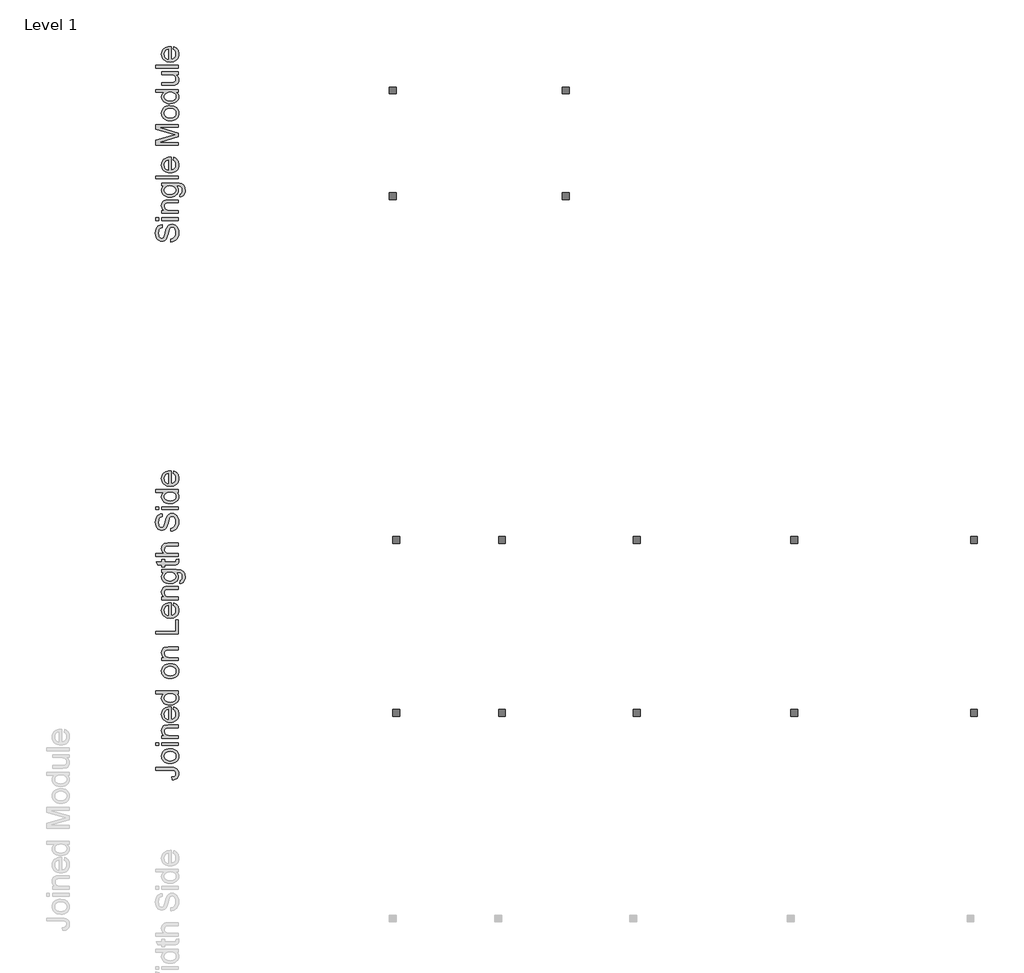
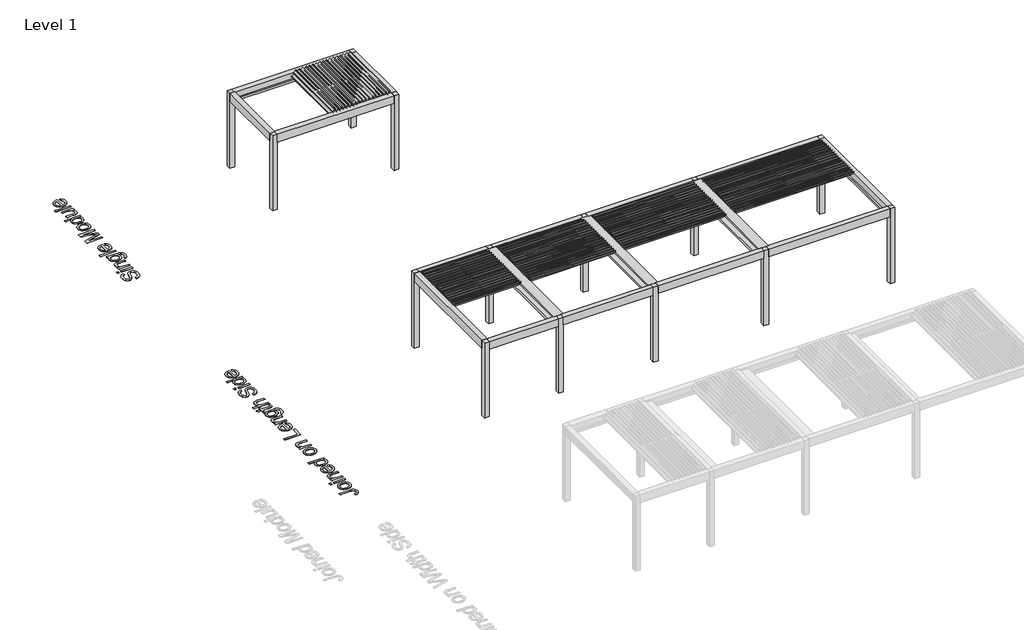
# One storey, part 48 of 69: 4 proxies.
"""IFC4 building model written with IfcOpenShell, lengths in millimetres."""

from ifc_helpers import new_model, si_unit, origin, origin_with_axes, place, context, project, spatial, polyline, outline, extrude, transform, mapped, element, save
from components import generic_models_6c4b0e00, generic_models_14f4a97e, generic_models_66dec0f1

model = new_model("IFC4")

# Units and contexts
model_context = context("Model", 3, world=origin())
ifc_project = project(units=[si_unit("LENGTHUNIT", "METRE", prefix="MILLI")], contexts=[model_context])

# Site, building, storey
site = spatial("IfcSite", under=ifc_project)
building = spatial("IfcBuilding", under=site)
storey = spatial("IfcBuildingStorey", under=building, Name="Level 1", Elevation=0.0)

# Proxies
placement = place(None, origin())
generic_models_shape = generic_models_6c4b0e00(model_context)
element("IfcBuildingElementProxy", 1, Name="Renson_Camargue_Skye_Freestanding_Patio covers : Renson_Camargue_Skye_Freestanding_Patio covers", ObjectType="Renson_Camargue_Skye_Freestanding_Patio covers : Renson_Camargue_Skye_Freestanding_Patio covers", at=placement, inside=storey, context=model_context, shape_type="MappedRepresentation", body=[
    mapped(generic_models_shape, transform((89532.7944478, 33378.5861401, 0.0), x_axis=(1.0, 0.0, 0.0), y_axis=(0.0, 1.0, 0.0), z_axis=(0.0, 0.0, 1.0))),
])
generic_models_2_shape = generic_models_14f4a97e(model_context)
generic_models_3_shape = generic_models_66dec0f1(model_context)
element("IfcBuildingElementProxy", 2, Name="Renson_Camargue_Skye_Freestanding_Patio covers : Renson_Camargue_Skye_Freestanding_Patio covers", ObjectType="Renson_Camargue_Skye_Freestanding_Patio covers : Renson_Camargue_Skye_Freestanding_Patio covers", at=placement, inside=storey, context=model_context, shape_type="MappedRepresentation", body=[
    mapped(generic_models_2_shape, transform((88862.3885423, 22628.5861401, 0.0), x_axis=(1.0, 0.0, 0.0), y_axis=(0.0, 1.0, 0.0), z_axis=(0.0, 0.0, 1.0))),
    mapped(generic_models_3_shape, transform((88862.3885423, 22628.5861401, 0.0), x_axis=(1.0, 0.0, 0.0), y_axis=(0.0, 1.0, 0.0), z_axis=(0.0, 0.0, 1.0))),
])
element("IfcBuildingElementProxy", 3, Name="500mm Arial", ObjectType="500mm Arial", at=placement, inside=storey, context=model_context, shape_type="SweptSolid", body=[
    extrude(outline(polyline([(82669.9627665, 31183.2954326), (82669.9627665, 31246.0806264), (82704.8042571, 31253.2849821), (82732.809274, 31266.3141361), (82755.0354779, 31286.6396164), (82772.5405295, 31315.7329508), (82783.8988861, 31351.294877), (82787.685005, 31391.0261325), (82784.8185911, 31426.0055789), (82776.2193494, 31456.631755), (82762.6077156, 31481.4484612), (82744.7041252, 31498.9994981), (82724.1487187, 31509.4381497), (82702.5816367, 31512.9177002), (82681.5663778, 31510.3118694), (82663.4022043, 31502.494377), (82647.9051752, 31486.6141376), (82634.8913496, 31459.8200656), (82610.9177063, 31368.4013898), (82595.0527952, 31308.3906393), (82579.954305, 31269.9929561), (82558.8317471, 31238.7383149), (82533.2332916, 31216.5887531), (82503.7107615, 31203.3909866), (82470.8159798, 31198.991731), (82434.0431087, 31204.4333189), (82399.753441, 31220.7580824), (82384.2257552, 31232.8943561), (82370.6907634, 31247.536826), (82349.5988624, 31284.3403539), (82336.7689778, 31328.5168502), (82332.4923496, 31377.4144987), (82336.9682472, 31430.389506), (82350.39594, 31476.7426374), (82372.4995166, 31514.8184239), (82386.7012944, 31530.1315119), (82403.0030653, 31542.9613965), (82440.0058627, 31560.7730165), (82481.607185, 31567.8547449), (82481.607185, 31505.069551), (82461.5729447, 31500.8695649), (82444.1445351, 31493.5425818), (82429.3219564, 31483.0886018), (82417.1052085, 31469.5076248), (82407.555605, 31452.546732), (82400.7344597, 31431.9530045), (82395.2775434, 31379.8670453), (82400.673146, 31326.5548129), (82407.4176493, 31306.1756832), (82416.8599538, 31289.9812112), (82428.2106462, 31277.6418359), (82440.680313, 31268.8279964), (82454.2689542, 31263.5396928), (82468.9765698, 31261.7769249), (82493.1034973, 31266.7739886), (82512.5092726, 31281.7651799), (82521.139171, 31295.5300979), (82529.86104, 31317.2044788), (82547.5806894, 31384.2816293), (82564.4112907, 31453.504758), (82579.0959137, 31495.3819918), (82601.8739406, 31531.1738443), (82629.9862564, 31556.1438347), (82663.1262928, 31570.8131292), (82700.9874814, 31575.7028941), (82739.691733, 31570.0773652), (82776.0967221, 31553.2007787), (82807.4280054, 31525.7629132), (82830.9111394, 31488.4535476), (82845.5804339, 31443.5872726), (82850.4701988, 31393.4786791), (82845.1972235, 31331.9657439), (82838.6060045, 31305.2904671), (82829.3782977, 31281.3359843), (82817.498775, 31259.9566754), (82802.9521078, 31241.0069206), (82785.7382961, 31224.4867197), (82765.8573399, 31210.3960729), (82743.9530328, 31199.0453805), (82720.6691682, 31190.745043), (82696.0057461, 31185.4950603), (82669.9627665, 31183.2954326)])), origin_with_axes(), (0.0, 0.0, 1.0), 5.0),
    extrude(outline(polyline([(82403.1256927, 31662.0325356), (82340.3404988, 31662.0325356), (82340.3404988, 31724.8177295), (82403.1256927, 31724.8177295), (82403.1256927, 31662.0325356)])), origin_with_axes(), (0.0, 0.0, 1.0), 5.0),
    extrude(outline(polyline([(82842.6220496, 31662.0325356), (82473.7590357, 31662.0325356), (82473.7590357, 31724.8177295), (82842.6220496, 31724.8177295), (82842.6220496, 31662.0325356)])), origin_with_axes(), (0.0, 0.0, 1.0), 5.0),
    extrude(outline(polyline([(82842.6220496, 31818.9955202), (82473.7590357, 31818.9955202), (82473.7590357, 31881.7807141), (82525.2625151, 31881.7807141), (82499.2961776, 31903.5930507), (82480.7487936, 31929.7893144), (82469.6203633, 31960.3695053), (82465.9108865, 31995.3336233), (82468.8999277, 32026.2816961), (82477.8670514, 32054.6239381), (82491.693283, 32078.2603563), (82509.2596483, 32095.0909576), (82530.5201619, 32106.5106279), (82555.4288387, 32113.914253), (82616.1293679, 32117.225191), (82842.6220496, 32117.225191), (82842.6220496, 32054.4399971), (82624.5906538, 32054.4399971), (82592.1250677, 32052.631244), (82569.0404725, 32047.2049846), (82552.5011111, 32037.1955286), (82539.6712265, 32021.6371859), (82531.4398669, 32001.6949161), (82528.6960804, 31978.5336788), (82530.2365862, 31959.4689608), (82534.8581038, 31941.7608077), (82542.560633, 31925.4092194), (82553.344174, 31910.414196), (82568.435, 31897.8870477), (82589.0593844, 31888.9390846), (82615.2173271, 31883.5703067), (82646.9088281, 31881.7807141), (82842.6220496, 31881.7807141), (82842.6220496, 31818.9955202)])), origin_with_axes(), (0.0, 0.0, 1.0), 5.0),
    extrude(outline(polyline([(82874.0146465, 32187.8585341), (82881.8627957, 32250.6437279), (82901.4831688, 32257.5721721), (82914.9721753, 32270.999865), (82925.4568122, 32297.3953981), (82928.9516911, 32331.9456488), (82924.9969597, 32368.795162), (82913.1327653, 32396.2023707), (82894.1255289, 32415.2096071), (82868.7416712, 32426.8592036), (82841.7330014, 32430.2621121), (82795.5331542, 32431.1511602), (82816.1345459, 32410.2585286), (82830.8498257, 32386.9440071), (82839.6789936, 32361.2075959), (82842.6220496, 32333.0492948), (82839.1961485, 32298.6255035), (82828.9184453, 32268.3173921), (82811.7889399, 32242.1249605), (82787.8076323, 32220.0482086), (82759.0361946, 32202.5316607), (82727.5362987, 32190.0198408), (82693.3079448, 32182.5127488), (82656.3511327, 32180.0103848), (82605.6600594, 32184.5016109), (82559.046345, 32197.9752889), (82519.5450157, 32219.9562381), (82503.5996305, 32233.9587466), (82490.1910982, 32249.9692776), (82479.5685056, 32267.7310802), (82471.9809394, 32286.9874033), (82467.4283997, 32307.7382471), (82465.9108865, 32329.9836115), (82469.3444518, 32359.3451933), (82479.6451477, 32385.9936453), (82496.8129741, 32409.9289676), (82520.8479311, 32431.1511602), (82473.7590357, 32431.1511602), (82473.7590357, 32493.936354), (82792.2222162, 32493.936354), (82865.75263, 32489.6443974), (82893.1023571, 32484.2794517), (82914.1750976, 32476.7685276), (82946.2881301, 32454.588309), (82970.8902386, 32422.383306), (82980.0106464, 32402.6977871), (82986.5252234, 32380.8586258), (82991.736885, 32330.7193755), (82989.9013071, 32299.9590758), (82984.3945735, 32272.3027804), (82975.2166841, 32247.7504893), (82962.367639, 32226.3022026), (82945.8321097, 32208.9772598), (82925.5947679, 32196.7950009), (82901.6556135, 32189.7554256), (82874.0146465, 32187.8585341)]), holes=[polyline([(82652.0591761, 32242.7955787), (82683.1030515, 32244.4702082), (82709.6480367, 32249.4940967), (82731.6941317, 32257.8672442), (82749.2413365, 32269.5896507), (82762.6268761, 32283.8412459), (82772.1879759, 32299.8019595), (82777.9246358, 32317.4717916), (82779.8368557, 32336.8507421), (82777.9361321, 32356.0380874), (82772.2339612, 32373.6236132), (82762.730343, 32389.6073195), (82749.4252775, 32403.9892062), (82732.0505174, 32415.8725611), (82710.3378155, 32424.3606717), (82684.2871717, 32429.4535381), (82653.898586, 32431.1511602), (82624.7784269, 32429.4037207), (82599.4673792, 32424.1614023), (82577.965443, 32415.4242049), (82560.2726183, 32403.1921286), (82546.4578829, 32388.4998414), (82536.5902148, 32372.3820115), (82530.669614, 32354.8386388), (82528.6960804, 32335.8697235), (82530.6389571, 32317.2188727), (82536.4675875, 32300.0165573), (82546.1819714, 32284.2627773), (82559.7821089, 32269.9575327), (82577.2066864, 32258.0741778), (82598.39439, 32249.5860672), (82623.3452199, 32244.4932008), (82652.0591761, 32242.7955787)])]), origin_with_axes(), (0.0, 0.0, 1.0), 5.0),
    extrude(outline(polyline([(82842.6220496, 32588.1141448), (82340.3404988, 32588.1141448), (82340.3404988, 32650.8993387), (82842.6220496, 32650.8993387), (82842.6220496, 32588.1141448)])), origin_with_axes(), (0.0, 0.0, 1.0), 5.0),
    extrude(outline(polyline([(82732.7479603, 33003.33029), (82740.5961096, 33064.8892106), (82765.2518675, 33055.4507381), (82786.9798978, 33042.7089919), (82805.7802006, 33026.663972), (82821.6527758, 33007.3156783), (82834.2603984, 32984.8633803), (82843.2658431, 32959.5063474), (82848.6691099, 32931.2445795), (82850.4701988, 32900.0780767), (82847.3623624, 32861.1209063), (82838.038853, 32826.4097072), (82822.4996709, 32795.9444795), (82800.7448158, 32769.7252231), (82773.3797603, 32748.6409863), (82741.0099768, 32733.5808171), (82703.6354654, 32724.5447156), (82661.2562259, 32721.5326817), (82617.4399475, 32724.5753724), (82578.8200022, 32733.7034444), (82545.3963901, 32748.9168977), (82517.1691112, 32770.2157324), (82494.7436379, 32796.3660109), (82478.7254427, 32826.1337957), (82469.1145256, 32859.5190868), (82465.9108865, 32896.5218841), (82469.1068613, 32932.3328971), (82478.6947858, 32964.718009), (82494.67466, 32993.6772198), (82517.0464838, 33019.2105295), (82545.2124491, 33040.0533438), (82578.5747475, 33054.9410683), (82617.1333792, 33063.873703), (82660.888344, 33066.8512479), (82677.8109157, 33066.4833659), (82677.8109157, 32784.3178756), (82702.8652124, 32787.9545424), (82724.8078406, 32795.1857229), (82743.6388002, 32806.011417), (82759.3580913, 32820.4316248), (82771.751116, 32837.6492686), (82780.6032766, 32856.8672707), (82785.9145729, 32878.0856312), (82787.685005, 32901.30435), (82784.4047238, 32934.7202979), (82774.5638805, 32962.8632706), (82757.5493382, 32985.7332679), (82732.7479603, 33003.33029)]), holes=[polyline([(82615.0257219, 32784.3178756), (82615.0257219, 33004.066054), (82581.8550287, 32995.5741113), (82558.12664, 32978.927451), (82545.2507701, 32961.8056098), (82536.0537203, 32942.3231925), (82530.5354903, 32920.480199), (82528.6960804, 32896.2766294), (82534.5668639, 32853.9548716), (82541.9053432, 32835.5416113), (82552.1792144, 32818.9600968), (82564.9132964, 32805.0457267), (82579.6324083, 32794.6338999), (82596.3365501, 32787.7246161), (82615.0257219, 32784.3178756)])]), origin_with_axes(), (0.0, 0.0, 1.0), 5.0),
    extrude(outline(polyline([(82842.6220496, 33333.6883217), (82340.3404988, 33333.6883217), (82340.3404988, 33441.723001), (82694.3656055, 33544.4847049), (82768.3098865, 33565.208724), (82688.2342389, 33587.6495257), (82340.3404988, 33688.6944471), (82340.3404988, 33796.7291263), (82842.6220496, 33796.7291263), (82842.6220496, 33733.9439325), (82403.1256927, 33733.9439325), (82842.6220496, 33607.7604081), (82842.6220496, 33522.6570399), (82403.1256927, 33396.4735156), (82842.6220496, 33396.4735156), (82842.6220496, 33333.6883217)])), origin_with_axes(), (0.0, 0.0, 1.0), 5.0),
    extrude(outline(polyline([(82658.1905427, 33883.0587678), (82610.4195327, 33886.4540121), (82569.2550703, 33896.6397448), (82534.6971554, 33913.6159661), (82506.745788, 33937.3826758), (82488.8805186, 33961.3103339), (82476.1196119, 33987.7211955), (82468.4630679, 34016.6152605), (82465.9108865, 34047.992529), (82469.0187229, 34082.6309181), (82478.3422323, 34113.9507051), (82493.8814145, 34141.9518898), (82515.6362695, 34166.6344725), (82542.8710335, 34186.7798438), (82574.8499423, 34201.1693947), (82611.5729961, 34209.8031253), (82653.0401947, 34212.6810355), (82716.4691821, 34207.5920012), (82742.5044974, 34201.2307084), (82764.7536939, 34192.3248984), (82783.9716961, 34180.9857024), (82800.9134284, 34167.3242512), (82815.5788908, 34151.3405449), (82827.9680834, 34133.0345836), (82844.84467, 34092.306981), (82850.4701988, 34047.992529), (82847.3738587, 34012.8483022), (82838.0848383, 33981.2372753), (82822.6031377, 33953.1594484), (82800.9287568, 33928.6148216), (82773.4295776, 33908.6840481), (82740.4734822, 33894.4477813), (82702.0604706, 33885.9060212), (82658.1905427, 33883.0587678)]), holes=[polyline([(82658.0679153, 33945.8439617), (82688.5216467, 33947.660379), (82714.8903552, 33953.1096311), (82737.1740406, 33962.1917178), (82755.372703, 33974.9066393), (82769.5093351, 33990.3730115), (82779.6069295, 34007.7094505), (82785.6654861, 34026.9159564), (82787.685005, 34047.992529), (82785.6539898, 34068.9618027), (82779.5609442, 34088.0916665), (82769.4058683, 34105.3821203), (82755.1887621, 34120.8331641), (82736.8099907, 34133.5480855), (82714.1699196, 34142.6301723), (82687.2685487, 34148.0794243), (82656.105878, 34149.8958417), (82626.6178368, 34148.067928), (82600.9389072, 34142.584187), (82579.069089, 34133.4446187), (82561.0083823, 34120.6492231), (82546.8717502, 34105.1406977), (82536.7741558, 34087.8617402), (82530.7155992, 34068.8123507), (82528.6960804, 34047.992529), (82530.707935, 34026.9159564), (82536.743499, 34007.7094505), (82546.8027723, 33990.3730115), (82560.8857549, 33974.9066393), (82579.0307679, 33962.1917178), (82601.2761323, 33953.1096311), (82627.6218481, 33947.660379), (82658.0679153, 33945.8439617)])]), origin_with_axes(), (0.0, 0.0, 1.0), 5.0),
    extrude(outline(polyline([(82842.6220496, 34510.9107063), (82783.3930483, 34510.9107063), (82812.7393017, 34492.1257319), (82833.7009112, 34469.3706977), (82846.2778769, 34442.6456035), (82850.4701988, 34411.9504496), (82844.4001459, 34371.3608028), (82826.1899871, 34334.2047213), (82797.1119811, 34302.7508107), (82758.4383863, 34279.2676766), (82711.7327014, 34264.6443673), (82658.5584247, 34259.7699309), (82606.0432698, 34264.2611569), (82558.6171493, 34277.734835), (82537.4869272, 34287.8362614), (82518.9778643, 34300.1756367), (82503.0899606, 34314.7529608), (82489.8232162, 34331.5682336), (82471.8889689, 34369.5367212), (82465.9108865, 34411.7051949), (82470.1875147, 34442.4233415), (82483.0173993, 34469.5852955), (82502.6837576, 34492.608577), (82527.469807, 34510.9107063), (82340.3404988, 34510.9107063), (82340.3404988, 34573.6959001), (82842.6220496, 34573.6959001), (82842.6220496, 34510.9107063)]), holes=[polyline([(82658.31317, 34322.5551247), (82688.7592372, 34324.3255568), (82715.104953, 34329.6368531), (82737.3503174, 34338.4890137), (82755.4953304, 34350.8820384), (82769.578313, 34365.6816245), (82779.6375863, 34381.7534691), (82785.6731503, 34399.0975724), (82787.685005, 34417.7139342), (82785.7651208, 34436.4184344), (82780.0054683, 34453.6590708), (82770.4060475, 34469.4358434), (82756.9668584, 34483.7487523), (82739.580602, 34495.6321072), (82718.1399795, 34504.1202178), (82692.6449908, 34509.2130841), (82663.0956359, 34510.9107063), (82630.6990277, 34509.1824273), (82602.9162729, 34503.9975904), (82579.7473714, 34495.3561957), (82561.1923233, 34483.258243), (82546.975217, 34468.6311016), (82536.8201411, 34452.4021406), (82530.7270955, 34434.5713602), (82528.6960804, 34415.1387602), (82530.6466213, 34396.1545164), (82536.4982443, 34378.8104132), (82546.2509493, 34363.1064505), (82559.9047363, 34349.0426284), (82577.7585094, 34337.4543455), (82600.1111727, 34329.1770007), (82626.9627262, 34324.2105937), (82658.31317, 34322.5551247)])]), origin_with_axes(), (0.0, 0.0, 1.0), 5.0),
    extrude(outline(polyline([(82842.6220496, 34903.3181678), (82779.2237191, 34903.3181678), (82810.394054, 34880.6014546), (82832.6585789, 34854.1446078), (82846.0172938, 34823.9476273), (82850.4701988, 34790.0105133), (82847.3432018, 34759.4303224), (82837.962211, 34730.9654531), (82823.8600678, 34707.0837802), (82806.569614, 34690.2531789), (82785.5696835, 34678.9254792), (82760.33911, 34671.5525108), (82701.9685001, 34667.8736909), (82473.7590357, 34667.8736909), (82473.7590357, 34730.6588847), (82672.4153131, 34730.6588847), (82736.4267803, 34734.460332), (82757.7792644, 34743.6113966), (82774.0120575, 34759.2923667), (82784.2667681, 34780.4609098), (82787.685005, 34806.0746937), (82784.190126, 34833.1600056), (82773.7054891, 34858.497878), (82757.1967846, 34879.3905097), (82735.6297026, 34893.1400993), (82706.0918441, 34900.7736507), (82665.6708099, 34903.3181678), (82473.7590357, 34903.3181678), (82473.7590357, 34966.1033616), (82842.6220496, 34966.1033616), (82842.6220496, 34903.3181678)])), origin_with_axes(), (0.0, 0.0, 1.0), 5.0),
    extrude(outline(polyline([(82842.6220496, 35052.4330032), (82340.3404988, 35052.4330032), (82340.3404988, 35115.218197), (82842.6220496, 35115.218197), (82842.6220496, 35052.4330032)])), origin_with_axes(), (0.0, 0.0, 1.0), 5.0),
    extrude(outline(polyline([(82732.7479603, 35467.6491484), (82740.5961096, 35529.2080689), (82765.2518675, 35519.7695965), (82786.9798978, 35507.0278503), (82805.7802006, 35490.9828304), (82821.6527758, 35471.6345367), (82834.2603984, 35449.1822387), (82843.2658431, 35423.8252057), (82848.6691099, 35395.5634379), (82850.4701988, 35364.3969351), (82847.3623624, 35325.4397646), (82838.038853, 35290.7285655), (82822.4996709, 35260.2633378), (82800.7448158, 35234.0440815), (82773.3797603, 35212.9598446), (82741.0099768, 35197.8996754), (82703.6354654, 35188.8635739), (82661.2562259, 35185.8515401), (82617.4399475, 35188.8942308), (82578.8200022, 35198.0223028), (82545.3963901, 35213.2357561), (82517.1691112, 35234.5345908), (82494.7436379, 35260.6848693), (82478.7254427, 35290.4526541), (82469.1145256, 35323.8379451), (82465.9108865, 35360.8407425), (82469.1068613, 35396.6517554), (82478.6947858, 35429.0368673), (82494.67466, 35457.9960781), (82517.0464838, 35483.5293879), (82545.2124491, 35504.3722021), (82578.5747475, 35519.2599266), (82617.1333792, 35528.1925613), (82660.888344, 35531.1701062), (82677.8109157, 35530.8022242), (82677.8109157, 35248.6367339), (82702.8652124, 35252.2734007), (82724.8078406, 35259.5045812), (82743.6388002, 35270.3302753), (82759.3580913, 35284.7504831), (82771.751116, 35301.9681269), (82780.6032766, 35321.1861291), (82785.9145729, 35342.4044896), (82787.685005, 35365.6232084), (82784.4047238, 35399.0391563), (82774.5638805, 35427.1821289), (82757.5493382, 35450.0521263), (82732.7479603, 35467.6491484)]), holes=[polyline([(82615.0257219, 35248.6367339), (82615.0257219, 35468.3849124), (82581.8550287, 35459.8929697), (82558.12664, 35443.2463094), (82545.2507701, 35426.1244682), (82536.0537203, 35406.6420509), (82530.5354903, 35384.7990574), (82528.6960804, 35360.5954878), (82534.5668639, 35318.2737299), (82541.9053432, 35299.8604697), (82552.1792144, 35283.2789551), (82564.9132964, 35269.3645851), (82579.6324083, 35258.9527582), (82596.3365501, 35252.0434745), (82615.0257219, 35248.6367339)])]), origin_with_axes(), (0.0, 0.0, 1.0), 5.0),
])
element("IfcBuildingElementProxy", 4, Name="500mm Arial", ObjectType="500mm Arial", at=placement, inside=storey, context=model_context, shape_type="SweptSolid", body=[
    extrude(outline(polyline([(82701.6006181, 19215.8193319), (82693.5072142, 19278.6045257), (82739.1552384, 19285.1344311), (82755.5643083, 19291.5493734), (82767.6967499, 19300.0643087), (82782.6879412, 19322.8729924), (82787.685005, 19353.0393161), (82784.8492479, 19376.2312102), (82776.3419768, 19396.0201958), (82762.9449408, 19411.2872986), (82745.4398892, 19420.9135442), (82720.1020168, 19426.0179068), (82683.2065183, 19427.7193611), (82340.3404988, 19427.7193611), (82340.3404988, 19490.5045549), (82682.1028723, 19490.5045549), (82738.0056072, 19486.718436), (82779.6529147, 19475.3600794), (82810.0798214, 19455.7703632), (82832.3213537, 19427.2901654), (82845.9329875, 19391.5289698), (82850.4701988, 19350.0962601), (82848.1287832, 19319.1558515), (82841.1045363, 19292.0628754), (82829.3974583, 19268.8173318), (82813.007549, 19249.4192207), (82791.9961221, 19234.2134316), (82766.4244913, 19223.5448537), (82736.2926567, 19217.4134872), (82701.6006181, 19215.8193319)])), origin_with_axes(), (0.0, 0.0, 1.0), 5.0),
    extrude(outline(polyline([(82658.1905427, 19576.8341965), (82610.4195327, 19580.2294407), (82569.2550703, 19590.4151734), (82534.6971554, 19607.3913947), (82506.745788, 19631.1581044), (82488.8805186, 19655.0857625), (82476.1196119, 19681.4966241), (82468.4630679, 19710.3906891), (82465.9108865, 19741.7679576), (82469.0187229, 19776.4063467), (82478.3422323, 19807.7261337), (82493.8814145, 19835.7273185), (82515.6362695, 19860.4099011), (82542.8710335, 19880.5552724), (82574.8499423, 19894.9448234), (82611.5729961, 19903.5785539), (82653.0401947, 19906.4564641), (82716.4691821, 19901.3674299), (82742.5044974, 19895.006137), (82764.7536939, 19886.1003271), (82783.9716961, 19874.761131), (82800.9134284, 19861.0996798), (82815.5788908, 19845.1159735), (82827.9680834, 19826.8100122), (82844.84467, 19786.0824096), (82850.4701988, 19741.7679576), (82847.3738587, 19706.6237308), (82838.0848383, 19675.0127039), (82822.6031377, 19646.9348771), (82800.9287568, 19622.3902502), (82773.4295776, 19602.4594767), (82740.4734822, 19588.2232099), (82702.0604706, 19579.6814498), (82658.1905427, 19576.8341965)]), holes=[polyline([(82658.0679153, 19639.6193903), (82688.5216467, 19641.4358076), (82714.8903552, 19646.8850597), (82737.1740406, 19655.9671465), (82755.372703, 19668.6820679), (82769.5093351, 19684.1484401), (82779.6069295, 19701.4848791), (82785.6654861, 19720.691385), (82787.685005, 19741.7679576), (82785.6539898, 19762.7372313), (82779.5609442, 19781.8670951), (82769.4058683, 19799.1575489), (82755.1887621, 19814.6085927), (82736.8099907, 19827.3235141), (82714.1699196, 19836.4056009), (82687.2685487, 19841.8548529), (82656.105878, 19843.6712703), (82626.6178368, 19841.8433566), (82600.9389072, 19836.3596156), (82579.069089, 19827.2200473), (82561.0083823, 19814.4246517), (82546.8717502, 19798.9161263), (82536.7741558, 19781.6371688), (82530.7155992, 19762.5877793), (82528.6960804, 19741.7679576), (82530.707935, 19720.691385), (82536.743499, 19701.4848791), (82546.8027723, 19684.1484401), (82560.8857549, 19668.6820679), (82579.0307679, 19655.9671465), (82601.2761323, 19646.8850597), (82627.6218481, 19641.4358076), (82658.0679153, 19639.6193903)])]), origin_with_axes(), (0.0, 0.0, 1.0), 5.0),
    extrude(outline(polyline([(82403.1256927, 19977.0898072), (82340.3404988, 19977.0898072), (82340.3404988, 20039.875001), (82403.1256927, 20039.875001), (82403.1256927, 19977.0898072)])), origin_with_axes(), (0.0, 0.0, 1.0), 5.0),
    extrude(outline(polyline([(82842.6220496, 19977.0898072), (82473.7590357, 19977.0898072), (82473.7590357, 20039.875001), (82842.6220496, 20039.875001), (82842.6220496, 19977.0898072)])), origin_with_axes(), (0.0, 0.0, 1.0), 5.0),
    extrude(outline(polyline([(82842.6220496, 20134.0527918), (82473.7590357, 20134.0527918), (82473.7590357, 20196.8379857), (82525.2625151, 20196.8379857), (82499.2961776, 20218.6503223), (82480.7487936, 20244.846586), (82469.6203633, 20275.4267769), (82465.9108865, 20310.3908948), (82468.8999277, 20341.3389677), (82477.8670514, 20369.6812097), (82491.693283, 20393.3176279), (82509.2596483, 20410.1482292), (82530.5201619, 20421.5678995), (82555.4288387, 20428.9715246), (82616.1293679, 20432.2824626), (82842.6220496, 20432.2824626), (82842.6220496, 20369.4972687), (82624.5906538, 20369.4972687), (82592.1250677, 20367.6885156), (82569.0404725, 20362.2622562), (82552.5011111, 20352.2528002), (82539.6712265, 20336.6944575), (82531.4398669, 20316.7521877), (82528.6960804, 20293.5909504), (82530.2365862, 20274.5262324), (82534.8581038, 20256.8180793), (82542.560633, 20240.466491), (82553.344174, 20225.4714676), (82568.435, 20212.9443193), (82589.0593844, 20203.9963561), (82615.2173271, 20198.6275783), (82646.9088281, 20196.8379857), (82842.6220496, 20196.8379857), (82842.6220496, 20134.0527918)])), origin_with_axes(), (0.0, 0.0, 1.0), 5.0),
    extrude(outline(polyline([(82732.7479603, 20776.8652647), (82740.5961096, 20838.4241852), (82765.2518675, 20828.9857128), (82786.9798978, 20816.2439666), (82805.7802006, 20800.1989467), (82821.6527758, 20780.850653), (82834.2603984, 20758.398355), (82843.2658431, 20733.041322), (82848.6691099, 20704.7795542), (82850.4701988, 20673.6130514), (82847.3623624, 20634.655881), (82838.038853, 20599.9446819), (82822.4996709, 20569.4794541), (82800.7448158, 20543.2601978), (82773.3797603, 20522.1759609), (82741.0099768, 20507.1157918), (82703.6354654, 20498.0796902), (82661.2562259, 20495.0676564), (82617.4399475, 20498.1103471), (82578.8200022, 20507.2384191), (82545.3963901, 20522.4518724), (82517.1691112, 20543.7507071), (82494.7436379, 20569.9009856), (82478.7254427, 20599.6687704), (82469.1145256, 20633.0540614), (82465.9108865, 20670.0568588), (82469.1068613, 20705.8678718), (82478.6947858, 20738.2529836), (82494.67466, 20767.2121944), (82517.0464838, 20792.7455042), (82545.2124491, 20813.5883185), (82578.5747475, 20828.476043), (82617.1333792, 20837.4086777), (82660.888344, 20840.3862226), (82677.8109157, 20840.0183406), (82677.8109157, 20557.8528503), (82702.8652124, 20561.4895171), (82724.8078406, 20568.7206975), (82743.6388002, 20579.5463917), (82759.3580913, 20593.9665994), (82771.751116, 20611.1842432), (82780.6032766, 20630.4022454), (82785.9145729, 20651.6206059), (82787.685005, 20674.8393247), (82784.4047238, 20708.2552726), (82774.5638805, 20736.3982452), (82757.5493382, 20759.2682426), (82732.7479603, 20776.8652647)]), holes=[polyline([(82615.0257219, 20557.8528503), (82615.0257219, 20777.6010287), (82581.8550287, 20769.109086), (82558.12664, 20752.4624257), (82545.2507701, 20735.3405845), (82536.0537203, 20715.8581672), (82530.5354903, 20694.0151737), (82528.6960804, 20669.8116041), (82534.5668639, 20627.4898463), (82541.9053432, 20609.076586), (82552.1792144, 20592.4950715), (82564.9132964, 20578.5807014), (82579.6324083, 20568.1688745), (82596.3365501, 20561.2595908), (82615.0257219, 20557.8528503)])]), origin_with_axes(), (0.0, 0.0, 1.0), 5.0),
    extrude(outline(polyline([(82842.6220496, 21130.7677441), (82783.3930483, 21130.7677441), (82812.7393017, 21111.9827697), (82833.7009112, 21089.2277355), (82846.2778769, 21062.5026413), (82850.4701988, 21031.8074874), (82844.4001459, 20991.2178406), (82826.1899871, 20954.0617591), (82797.1119811, 20922.6078485), (82758.4383863, 20899.1247144), (82711.7327014, 20884.5014051), (82658.5584247, 20879.6269687), (82606.0432698, 20884.1181947), (82558.6171493, 20897.5918728), (82537.4869272, 20907.6932993), (82518.9778643, 20920.0326745), (82503.0899606, 20934.6099986), (82489.8232162, 20951.4252714), (82471.8889689, 20989.393759), (82465.9108865, 21031.5622327), (82470.1875147, 21062.2803793), (82483.0173993, 21089.4423333), (82502.6837576, 21112.4656148), (82527.469807, 21130.7677441), (82340.3404988, 21130.7677441), (82340.3404988, 21193.5529379), (82842.6220496, 21193.5529379), (82842.6220496, 21130.7677441)]), holes=[polyline([(82658.31317, 20942.4121625), (82688.7592372, 20944.1825946), (82715.104953, 20949.493891), (82737.3503174, 20958.3460515), (82755.4953304, 20970.7390762), (82769.578313, 20985.5386623), (82779.6375863, 21001.6105069), (82785.6731503, 21018.9546102), (82787.685005, 21037.570972), (82785.7651208, 21056.2754722), (82780.0054683, 21073.5161086), (82770.4060475, 21089.2928812), (82756.9668584, 21103.6057901), (82739.580602, 21115.489145), (82718.1399795, 21123.9772556), (82692.6449908, 21129.070122), (82663.0956359, 21130.7677441), (82630.6990277, 21129.0394651), (82602.9162729, 21123.8546283), (82579.7473714, 21115.2132335), (82561.1923233, 21103.1152808), (82546.975217, 21088.4881394), (82536.8201411, 21072.2591784), (82530.7270955, 21054.428398), (82528.6960804, 21034.995798), (82530.6466213, 21016.0115542), (82536.4982443, 20998.667451), (82546.2509493, 20982.9634883), (82559.9047363, 20968.8996662), (82577.7585094, 20957.3113834), (82600.1111727, 20949.0340385), (82626.9627262, 20944.0676315), (82658.31317, 20942.4121625)])]), origin_with_axes(), (0.0, 0.0, 1.0), 5.0),
    extrude(outline(polyline([(82658.1905427, 21468.238161), (82610.4195327, 21471.6334052), (82569.2550703, 21481.819138), (82534.6971554, 21498.7953592), (82506.745788, 21522.5620689), (82488.8805186, 21546.489727), (82476.1196119, 21572.9005886), (82468.4630679, 21601.7946537), (82465.9108865, 21633.1719222), (82469.0187229, 21667.8103113), (82478.3422323, 21699.1300982), (82493.8814145, 21727.131283), (82515.6362695, 21751.8138656), (82542.8710335, 21771.9592369), (82574.8499423, 21786.3487879), (82611.5729961, 21794.9825185), (82653.0401947, 21797.8604287), (82716.4691821, 21792.7713944), (82742.5044974, 21786.4101016), (82764.7536939, 21777.5042916), (82783.9716961, 21766.1650955), (82800.9134284, 21752.5036443), (82815.5788908, 21736.5199381), (82827.9680834, 21718.2139767), (82844.84467, 21677.4863742), (82850.4701988, 21633.1719222), (82847.3738587, 21598.0276953), (82838.0848383, 21566.4166684), (82822.6031377, 21538.3388416), (82800.9287568, 21513.7942147), (82773.4295776, 21493.8634412), (82740.4734822, 21479.6271744), (82702.0604706, 21471.0854143), (82658.1905427, 21468.238161)]), holes=[polyline([(82658.0679153, 21531.0233548), (82688.5216467, 21532.8397722), (82714.8903552, 21538.2890242), (82737.1740406, 21547.371111), (82755.372703, 21560.0860324), (82769.5093351, 21575.5524047), (82779.6069295, 21592.8888437), (82785.6654861, 21612.0953495), (82787.685005, 21633.1719222), (82785.6539898, 21654.1411959), (82779.5609442, 21673.2710596), (82769.4058683, 21690.5615134), (82755.1887621, 21706.0125572), (82736.8099907, 21718.7274787), (82714.1699196, 21727.8095654), (82687.2685487, 21733.2588175), (82656.105878, 21735.0752348), (82626.6178368, 21733.2473212), (82600.9389072, 21727.7635802), (82579.069089, 21718.6240118), (82561.0083823, 21705.8286162), (82546.8717502, 21690.3200908), (82536.7741558, 21673.0411334), (82530.7155992, 21653.9917438), (82528.6960804, 21633.1719222), (82530.707935, 21612.0953495), (82536.743499, 21592.8888437), (82546.8027723, 21575.5524047), (82560.8857549, 21560.0860324), (82579.0307679, 21547.371111), (82601.2761323, 21538.2890242), (82627.6218481, 21532.8397722), (82658.0679153, 21531.0233548)])]), origin_with_axes(), (0.0, 0.0, 1.0), 5.0),
    extrude(outline(polyline([(82842.6220496, 21868.4937717), (82473.7590357, 21868.4937717), (82473.7590357, 21931.2789656), (82525.2625151, 21931.2789656), (82499.2961776, 21953.0913022), (82480.7487936, 21979.287566), (82469.6203633, 22009.8677568), (82465.9108865, 22044.8318748), (82468.8999277, 22075.7799476), (82477.8670514, 22104.1221896), (82491.693283, 22127.7586078), (82509.2596483, 22144.5892091), (82530.5201619, 22156.0088794), (82555.4288387, 22163.4125045), (82616.1293679, 22166.7234425), (82842.6220496, 22166.7234425), (82842.6220496, 22103.9382487), (82624.5906538, 22103.9382487), (82592.1250677, 22102.1294955), (82569.0404725, 22096.7032361), (82552.5011111, 22086.6937801), (82539.6712265, 22071.1354374), (82531.4398669, 22051.1931676), (82528.6960804, 22028.0319303), (82530.2365862, 22008.9672123), (82534.8581038, 21991.2590592), (82542.560633, 21974.9074709), (82553.344174, 21959.9124475), (82568.435, 21947.3852992), (82589.0593844, 21938.4373361), (82615.2173271, 21933.0685582), (82646.9088281, 21931.2789656), (82842.6220496, 21931.2789656), (82842.6220496, 21868.4937717)])), origin_with_axes(), (0.0, 0.0, 1.0), 5.0),
    extrude(outline(polyline([(82842.6220496, 22457.104964), (82340.3404988, 22457.104964), (82340.3404988, 22519.8901579), (82779.8368557, 22519.8901579), (82779.8368557, 22771.0309332), (82842.6220496, 22771.0309332), (82842.6220496, 22457.104964)])), origin_with_axes(), (0.0, 0.0, 1.0), 5.0),
    extrude(outline(polyline([(82732.7479603, 23092.0692877), (82740.5961096, 23153.6282082), (82765.2518675, 23144.1897358), (82786.9798978, 23131.4479896), (82805.7802006, 23115.4029697), (82821.6527758, 23096.054676), (82834.2603984, 23073.602378), (82843.2658431, 23048.245345), (82848.6691099, 23019.9835772), (82850.4701988, 22988.8170744), (82847.3623624, 22949.8599039), (82838.038853, 22915.1487048), (82822.4996709, 22884.6834771), (82800.7448158, 22858.4642208), (82773.3797603, 22837.3799839), (82741.0099768, 22822.3198147), (82703.6354654, 22813.2837132), (82661.2562259, 22810.2716794), (82617.4399475, 22813.3143701), (82578.8200022, 22822.4424421), (82545.3963901, 22837.6558954), (82517.1691112, 22858.9547301), (82494.7436379, 22885.1050086), (82478.7254427, 22914.8727934), (82469.1145256, 22948.2580844), (82465.9108865, 22985.2608818), (82469.1068613, 23021.0718947), (82478.6947858, 23053.4570066), (82494.67466, 23082.4162174), (82517.0464838, 23107.9495272), (82545.2124491, 23128.7923414), (82578.5747475, 23143.6800659), (82617.1333792, 23152.6127006), (82660.888344, 23155.5902455), (82677.8109157, 23155.2223635), (82677.8109157, 22873.0568732), (82702.8652124, 22876.69354), (82724.8078406, 22883.9247205), (82743.6388002, 22894.7504146), (82759.3580913, 22909.1706224), (82771.751116, 22926.3882662), (82780.6032766, 22945.6062684), (82785.9145729, 22966.8246289), (82787.685005, 22990.0433477), (82784.4047238, 23023.4592956), (82774.5638805, 23051.6022682), (82757.5493382, 23074.4722656), (82732.7479603, 23092.0692877)]), holes=[polyline([(82615.0257219, 22873.0568732), (82615.0257219, 23092.8050517), (82581.8550287, 23084.313109), (82558.12664, 23067.6664487), (82545.2507701, 23050.5446075), (82536.0537203, 23031.0621902), (82530.5354903, 23009.2191967), (82528.6960804, 22985.0156271), (82534.5668639, 22942.6938692), (82541.9053432, 22924.280609), (82552.1792144, 22907.6990944), (82564.9132964, 22893.7847244), (82579.6324083, 22883.3728975), (82596.3365501, 22876.4636138), (82615.0257219, 22873.0568732)])]), origin_with_axes(), (0.0, 0.0, 1.0), 5.0),
    extrude(outline(polyline([(82842.6220496, 23218.3754394), (82473.7590357, 23218.3754394), (82473.7590357, 23281.1606332), (82525.2625151, 23281.1606332), (82499.2961776, 23302.9729698), (82480.7487936, 23329.1692336), (82469.6203633, 23359.7494244), (82465.9108865, 23394.7135424), (82468.8999277, 23425.6616152), (82477.8670514, 23454.0038573), (82491.693283, 23477.6402755), (82509.2596483, 23494.4708768), (82530.5201619, 23505.890547), (82555.4288387, 23513.2941722), (82616.1293679, 23516.6051101), (82842.6220496, 23516.6051101), (82842.6220496, 23453.8199163), (82624.5906538, 23453.8199163), (82592.1250677, 23452.0111631), (82569.0404725, 23446.5849037), (82552.5011111, 23436.5754478), (82539.6712265, 23421.0171051), (82531.4398669, 23401.0748352), (82528.6960804, 23377.9135979), (82530.2365862, 23358.84888), (82534.8581038, 23341.1407268), (82542.560633, 23324.7891386), (82553.344174, 23309.7941152), (82568.435, 23297.2669668), (82589.0593844, 23288.3190037), (82615.2173271, 23282.9502258), (82646.9088281, 23281.1606332), (82842.6220496, 23281.1606332), (82842.6220496, 23218.3754394)])), origin_with_axes(), (0.0, 0.0, 1.0), 5.0),
    extrude(outline(polyline([(82874.0146465, 23587.2384532), (82881.8627957, 23650.023647), (82901.4831688, 23656.9520913), (82914.9721753, 23670.3797841), (82925.4568122, 23696.7753173), (82928.9516911, 23731.325568), (82924.9969597, 23768.1750812), (82913.1327653, 23795.5822898), (82894.1255289, 23814.5895262), (82868.7416712, 23826.2391227), (82841.7330014, 23829.6420312), (82795.5331542, 23830.5310793), (82816.1345459, 23809.6384477), (82830.8498257, 23786.3239263), (82839.6789936, 23760.587515), (82842.6220496, 23732.429214), (82839.1961485, 23698.0054227), (82828.9184453, 23667.6973112), (82811.7889399, 23641.5048796), (82787.8076323, 23619.4281278), (82759.0361946, 23601.9115799), (82727.5362987, 23589.3997599), (82693.3079448, 23581.892668), (82656.3511327, 23579.390304), (82605.6600594, 23583.88153), (82559.046345, 23597.3552081), (82519.5450157, 23619.3361573), (82503.5996305, 23633.3386657), (82490.1910982, 23649.3491967), (82479.5685056, 23667.1109993), (82471.9809394, 23686.3673225), (82467.4283997, 23707.1181663), (82465.9108865, 23729.3635307), (82469.3444518, 23758.7251124), (82479.6451477, 23785.3735644), (82496.8129741, 23809.3088868), (82520.8479311, 23830.5310793), (82473.7590357, 23830.5310793), (82473.7590357, 23893.3162732), (82792.2222162, 23893.3162732), (82865.75263, 23889.0243166), (82893.1023571, 23883.6593708), (82914.1750976, 23876.1484468), (82946.2881301, 23853.9682281), (82970.8902386, 23821.7632251), (82980.0106464, 23802.0777063), (82986.5252234, 23780.2385449), (82991.736885, 23730.0992947), (82989.9013071, 23699.3389949), (82984.3945735, 23671.6826995), (82975.2166841, 23647.1304084), (82962.367639, 23625.6821217), (82945.8321097, 23608.357179), (82925.5947679, 23596.17492), (82901.6556135, 23589.1353447), (82874.0146465, 23587.2384532)]), holes=[polyline([(82652.0591761, 23642.1754978), (82683.1030515, 23643.8501273), (82709.6480367, 23648.8740158), (82731.6941317, 23657.2471633), (82749.2413365, 23668.9695698), (82762.6268761, 23683.221165), (82772.1879759, 23699.1818787), (82777.9246358, 23716.8517107), (82779.8368557, 23736.2306613), (82777.9361321, 23755.4180066), (82772.2339612, 23773.0035324), (82762.730343, 23788.9872386), (82749.4252775, 23803.3691254), (82732.0505174, 23815.2524802), (82710.3378155, 23823.7405909), (82684.2871717, 23828.8334572), (82653.898586, 23830.5310793), (82624.7784269, 23828.7836399), (82599.4673792, 23823.5413214), (82577.965443, 23814.8041241), (82560.2726183, 23802.5720477), (82546.4578829, 23787.8797605), (82536.5902148, 23771.7619306), (82530.669614, 23754.218558), (82528.6960804, 23735.2496426), (82530.6389571, 23716.5987919), (82536.4675875, 23699.3964765), (82546.1819714, 23683.6426965), (82559.7821089, 23669.3374518), (82577.2066864, 23657.4540969), (82598.39439, 23648.9659863), (82623.3452199, 23643.8731199), (82652.0591761, 23642.1754978)])]), origin_with_axes(), (0.0, 0.0, 1.0), 5.0),
    extrude(outline(polyline([(82790.2601789, 24120.9126009), (82844.4614595, 24128.7607501), (82850.4701988, 24081.7944821), (82847.864368, 24051.6588153), (82840.0468756, 24029.1873567), (82827.9987403, 24013.3071173), (82812.7009806, 24002.9451078), (82786.4280748, 23997.2429368), (82741.4545009, 23995.3422132), (82536.5442296, 23995.3422132), (82536.5442296, 23948.2533178), (82473.7590357, 23948.2533178), (82473.7590357, 23995.3422132), (82384.1184562, 23995.3422132), (82347.2076294, 24058.127407), (82473.7590357, 24058.127407), (82473.7590357, 24120.9126009), (82536.5442296, 24120.9126009), (82536.5442296, 24058.127407), (82739.6150909, 24058.127407), (82771.9887065, 24061.438345), (82783.454362, 24072.1682365), (82787.685005, 24093.5667059), (82790.2601789, 24120.9126009)])), origin_with_axes(), (0.0, 0.0, 1.0), 5.0),
    extrude(outline(polyline([(82842.6220496, 24183.6977947), (82340.3404988, 24183.6977947), (82340.3404988, 24246.4829886), (82525.0172604, 24246.4829886), (82499.1582218, 24269.5445911), (82480.68748, 24295.4419508), (82469.6050349, 24324.1750674), (82465.9108865, 24355.7439411), (82469.94226, 24393.6664435), (82482.0363806, 24426.2546569), (82501.2428865, 24451.914426), (82526.6114157, 24469.0515956), (82561.4682348, 24478.708498), (82609.13961, 24481.9274655), (82842.6220496, 24481.9274655), (82842.6220496, 24419.1422716), (82615.6388585, 24419.1422716), (82576.3367987, 24414.1452079), (82561.330279, 24407.8988782), (82549.4200994, 24399.1540166), (82540.3533411, 24388.1175567), (82533.8770851, 24374.9964322), (82528.6960804, 24342.5001893), (82532.1909593, 24315.9667004), (82542.6755962, 24291.0580236), (82559.1383155, 24270.4259751), (82580.5674417, 24256.7223708), (82609.0476395, 24249.0428341), (82646.6635735, 24246.4829886), (82842.6220496, 24246.4829886), (82842.6220496, 24183.6977947)])), origin_with_axes(), (0.0, 0.0, 1.0), 5.0),
    extrude(outline(polyline([(82669.9627665, 24748.7645393), (82669.9627665, 24811.5497332), (82704.8042571, 24818.7540889), (82732.809274, 24831.7832429), (82755.0354779, 24852.1087231), (82772.5405295, 24881.2020576), (82783.8988861, 24916.7639838), (82787.685005, 24956.4952393), (82784.8185911, 24991.4746856), (82776.2193494, 25022.1008617), (82762.6077156, 25046.917568), (82744.7041252, 25064.4686048), (82724.1487187, 25074.9072565), (82702.5816367, 25078.386807), (82681.5663778, 25075.7809762), (82663.4022043, 25067.9634838), (82647.9051752, 25052.0832443), (82634.8913496, 25025.2891724), (82610.9177063, 24933.8704965), (82595.0527952, 24873.8597461), (82579.954305, 24835.4620628), (82558.8317471, 24804.2074217), (82533.2332916, 24782.0578599), (82503.7107615, 24768.8600933), (82470.8159798, 24764.4608378), (82434.0431087, 24769.9024256), (82399.753441, 24786.2271892), (82384.2257552, 24798.3634629), (82370.6907634, 24813.0059327), (82349.5988624, 24849.8094607), (82336.7689778, 24893.9859569), (82332.4923496, 24942.8836054), (82336.9682472, 24995.8586127), (82350.39594, 25042.2117441), (82372.4995166, 25080.2875306), (82386.7012944, 25095.6006187), (82403.0030653, 25108.4305033), (82440.0058627, 25126.2421232), (82481.607185, 25133.3238516), (82481.607185, 25070.5386578), (82461.5729447, 25066.3386716), (82444.1445351, 25059.0116886), (82429.3219564, 25048.5577085), (82417.1052085, 25034.9767316), (82407.555605, 25018.0158387), (82400.7344597, 24997.4221112), (82395.2775434, 24945.3361521), (82400.673146, 24892.0239196), (82407.4176493, 24871.6447899), (82416.8599538, 24855.4503179), (82428.2106462, 24843.1109427), (82440.680313, 24834.2971032), (82454.2689542, 24829.0087995), (82468.9765698, 24827.2460316), (82493.1034973, 24832.2430954), (82512.5092726, 24847.2342867), (82521.139171, 24860.9992047), (82529.86104, 24882.6735856), (82547.5806894, 24949.750736), (82564.4112907, 25018.9738648), (82579.0959137, 25060.8510986), (82601.8739406, 25096.642951), (82629.9862564, 25121.6129414), (82663.1262928, 25136.282236), (82700.9874814, 25141.1720008), (82739.691733, 25135.546472), (82776.0967221, 25118.6698855), (82807.4280054, 25091.23202), (82830.9111394, 25053.9226543), (82845.5804339, 25009.0563793), (82850.4701988, 24958.9477859), (82845.1972235, 24897.4348506), (82838.6060045, 24870.7595739), (82829.3782977, 24846.805091), (82817.498775, 24825.4257822), (82802.9521078, 24806.4760273), (82785.7382961, 24789.9558265), (82765.8573399, 24775.8651796), (82743.9530328, 24764.5144872), (82720.6691682, 24756.2141497), (82696.0057461, 24750.9641671), (82669.9627665, 24748.7645393)])), origin_with_axes(), (0.0, 0.0, 1.0), 5.0),
    extrude(outline(polyline([(82403.1256927, 25227.5016424), (82340.3404988, 25227.5016424), (82340.3404988, 25290.2868362), (82403.1256927, 25290.2868362), (82403.1256927, 25227.5016424)])), origin_with_axes(), (0.0, 0.0, 1.0), 5.0),
    extrude(outline(polyline([(82842.6220496, 25227.5016424), (82473.7590357, 25227.5016424), (82473.7590357, 25290.2868362), (82842.6220496, 25290.2868362), (82842.6220496, 25227.5016424)])), origin_with_axes(), (0.0, 0.0, 1.0), 5.0),
    extrude(outline(polyline([(82842.6220496, 25612.0609547), (82783.3930483, 25612.0609547), (82812.7393017, 25593.2759803), (82833.7009112, 25570.520946), (82846.2778769, 25543.7958519), (82850.4701988, 25513.100698), (82844.4001459, 25472.5110512), (82826.1899871, 25435.3549696), (82797.1119811, 25403.9010591), (82758.4383863, 25380.417925), (82711.7327014, 25365.7946157), (82658.5584247, 25360.9201793), (82606.0432698, 25365.4114053), (82558.6171493, 25378.8850834), (82537.4869272, 25388.9865098), (82518.9778643, 25401.3258851), (82503.0899606, 25415.9032091), (82489.8232162, 25432.718482), (82471.8889689, 25470.6869696), (82465.9108865, 25512.8554433), (82470.1875147, 25543.5735899), (82483.0173993, 25570.7355439), (82502.6837576, 25593.7588254), (82527.469807, 25612.0609547), (82340.3404988, 25612.0609547), (82340.3404988, 25674.8461485), (82842.6220496, 25674.8461485), (82842.6220496, 25612.0609547)]), holes=[polyline([(82658.31317, 25423.7053731), (82688.7592372, 25425.4758052), (82715.104953, 25430.7871015), (82737.3503174, 25439.639262), (82755.4953304, 25452.0322868), (82769.578313, 25466.8318729), (82779.6375863, 25482.9037175), (82785.6731503, 25500.2478207), (82787.685005, 25518.8641825), (82785.7651208, 25537.5686827), (82780.0054683, 25554.8093192), (82770.4060475, 25570.5860918), (82756.9668584, 25584.8990007), (82739.580602, 25596.7823555), (82718.1399795, 25605.2704662), (82692.6449908, 25610.3633325), (82663.0956359, 25612.0609547), (82630.6990277, 25610.3326757), (82602.9162729, 25605.1478388), (82579.7473714, 25596.506444), (82561.1923233, 25584.4084914), (82546.975217, 25569.7813499), (82536.8201411, 25553.552389), (82530.7270955, 25535.7216086), (82528.6960804, 25516.2890086), (82530.6466213, 25497.3047648), (82536.4982443, 25479.9606616), (82546.2509493, 25464.2566989), (82559.9047363, 25450.1928768), (82577.7585094, 25438.6045939), (82600.1111727, 25430.327249), (82626.9627262, 25425.3608421), (82658.31317, 25423.7053731)])]), origin_with_axes(), (0.0, 0.0, 1.0), 5.0),
    extrude(outline(polyline([(82732.7479603, 26027.2770999), (82740.5961096, 26088.8360204), (82765.2518675, 26079.397548), (82786.9798978, 26066.6558018), (82805.7802006, 26050.6107818), (82821.6527758, 26031.2624882), (82834.2603984, 26008.8101901), (82843.2658431, 25983.4531572), (82848.6691099, 25955.1913893), (82850.4701988, 25924.0248866), (82847.3623624, 25885.0677161), (82838.038853, 25850.356517), (82822.4996709, 25819.8912893), (82800.7448158, 25793.6720329), (82773.3797603, 25772.5877961), (82741.0099768, 25757.5276269), (82703.6354654, 25748.4915254), (82661.2562259, 25745.4794916), (82617.4399475, 25748.5221822), (82578.8200022, 25757.6502542), (82545.3963901, 25772.8637076), (82517.1691112, 25794.1625423), (82494.7436379, 25820.3128208), (82478.7254427, 25850.0806055), (82469.1145256, 25883.4658966), (82465.9108865, 25920.4686939), (82469.1068613, 25956.2797069), (82478.6947858, 25988.6648188), (82494.67466, 26017.6240296), (82517.0464838, 26043.1573393), (82545.2124491, 26064.0001536), (82578.5747475, 26078.8878781), (82617.1333792, 26087.8205128), (82660.888344, 26090.7980577), (82677.8109157, 26090.4301757), (82677.8109157, 25808.2646854), (82702.8652124, 25811.9013522), (82724.8078406, 25819.1325327), (82743.6388002, 25829.9582268), (82759.3580913, 25844.3784346), (82771.751116, 25861.5960784), (82780.6032766, 25880.8140806), (82785.9145729, 25902.032441), (82787.685005, 25925.2511599), (82784.4047238, 25958.6671078), (82774.5638805, 25986.8100804), (82757.5493382, 26009.6800778), (82732.7479603, 26027.2770999)]), holes=[polyline([(82615.0257219, 25808.2646854), (82615.0257219, 26028.0128639), (82581.8550287, 26019.5209211), (82558.12664, 26002.8742609), (82545.2507701, 25985.7524197), (82536.0537203, 25966.2700023), (82530.5354903, 25944.4270089), (82528.6960804, 25920.2234393), (82534.5668639, 25877.9016814), (82541.9053432, 25859.4884211), (82552.1792144, 25842.9069066), (82564.9132964, 25828.9925366), (82579.6324083, 25818.5807097), (82596.3365501, 25811.671426), (82615.0257219, 25808.2646854)])]), origin_with_axes(), (0.0, 0.0, 1.0), 5.0),
])

save(model, "model.ifc")
